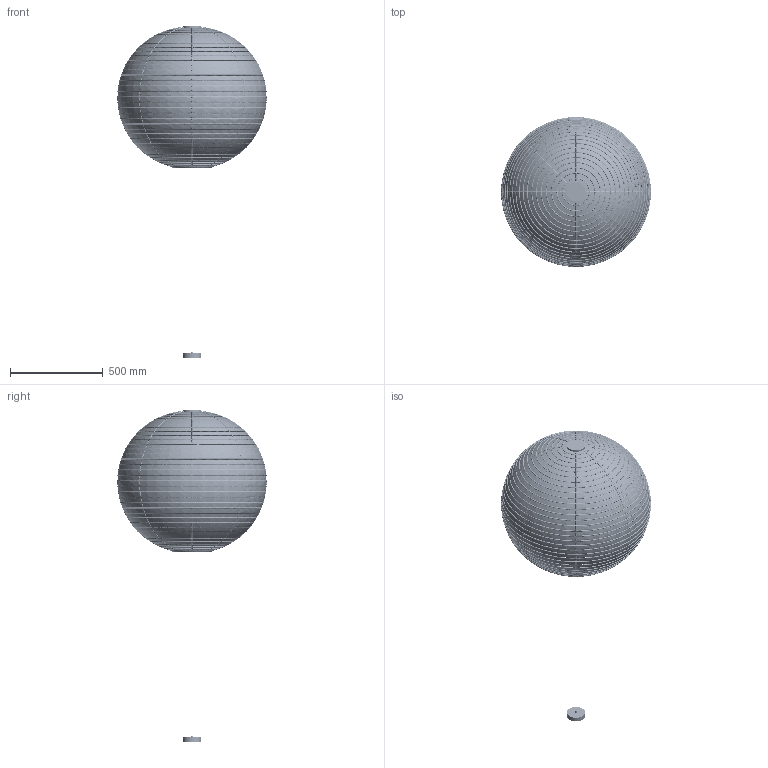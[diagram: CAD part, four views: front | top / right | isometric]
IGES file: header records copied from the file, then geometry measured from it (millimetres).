
Start section: SolidWorks IGES file using analytic representation for surfaces
Global section: file name: F:\燠隴矨\3D\6堎\Rice Paper 45A Pendant Lamp-D80.IGS; native system: SolidWorks 2022; preprocessor: SolidWorks 2022; author: MyPC; date: 230630.100336; units: millimetre
Bounding box: 809.12 x 809.12 x 1792.88 mm (x, y, z)
Surface area: 4695437.3 mm2 (no closed solid volume)
Topology: 0 solids, 0 shells, 411 faces, 3616 edges, 3615 vertices
Faces by surface type: bspline 371, revolution 40
